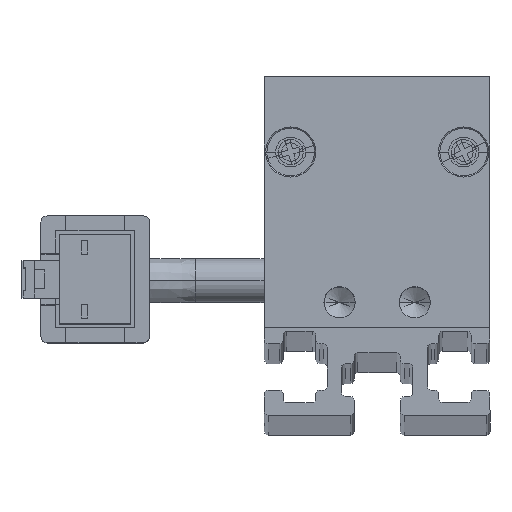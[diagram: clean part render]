
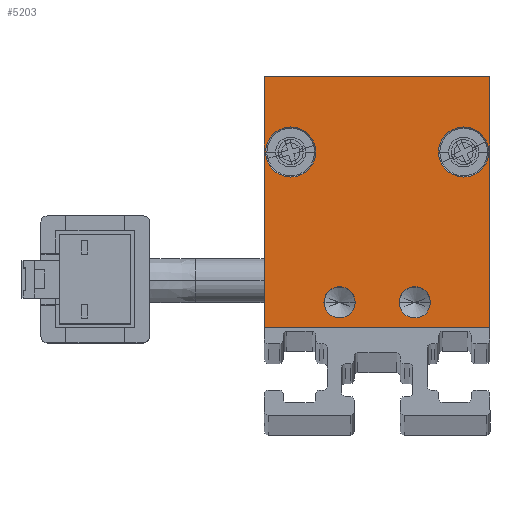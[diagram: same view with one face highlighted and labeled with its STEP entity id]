
A CAD part, top view. The second image highlights one B-rep face of the part: STEP entity #5203.
In plain terms, the highlighted planar face has unit normal (0, 0, 1) as drawn and (0, 0, -1) by its records, which use the part's own axes.
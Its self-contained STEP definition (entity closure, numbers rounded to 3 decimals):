
#13 = LINE ( 'NONE', #11820, #7384 ) ;
#281 = FACE_BOUND ( 'NONE', #11072, .T. ) ;
#341 = CARTESIAN_POINT ( 'NONE',  ( 8.9, 14., -2.5 ) ) ;
#390 = VERTEX_POINT ( 'NONE', #3933 ) ;
#506 = ORIENTED_EDGE ( 'NONE', *, *, #8351, .F. ) ;
#522 = AXIS2_PLACEMENT_3D ( 'NONE', #5256, #1318, #7332 ) ;
#657 = CIRCLE ( 'NONE', #5903, 2. ) ;
#912 = CARTESIAN_POINT ( 'NONE',  ( 9., 20., -2.5 ) ) ;
#974 = DIRECTION ( 'NONE',  ( 0., 1., 0. ) ) ;
#1318 = DIRECTION ( 'NONE',  ( 0., 0., -1. ) ) ;
#1334 = FACE_OUTER_BOUND ( 'NONE', #5670, .T. ) ;
#1337 = VERTEX_POINT ( 'NONE', #341 ) ;
#1446 = EDGE_CURVE ( 'NONE', #10167, #4856, #6175, .T. ) ;
#1566 = ORIENTED_EDGE ( 'NONE', *, *, #8465, .F. ) ;
#1674 = EDGE_CURVE ( 'NONE', #10662, #8745, #13, .T. ) ;
#1773 = CARTESIAN_POINT ( 'NONE',  ( 4.25, 2., -2.5 ) ) ;
#1887 = EDGE_CURVE ( 'NONE', #11799, #8272, #4382, .T. ) ;
#1899 = CARTESIAN_POINT ( 'NONE',  ( -9., 20., -2.5 ) ) ;
#2022 = DIRECTION ( 'NONE',  ( -1., 0., 0. ) ) ;
#2097 = ORIENTED_EDGE ( 'NONE', *, *, #3768, .F. ) ;
#2170 = PLANE ( 'NONE',  #4216 ) ;
#2500 = CARTESIAN_POINT ( 'NONE',  ( -4.9, 14., -2.5 ) ) ;
#2536 = DIRECTION ( 'NONE',  ( -1., 0., 0. ) ) ;
#2673 = EDGE_CURVE ( 'NONE', #7144, #6390, #3155, .T. ) ;
#2710 = CARTESIAN_POINT ( 'NONE',  ( 1.75, 2., -2.5 ) ) ;
#2748 = AXIS2_PLACEMENT_3D ( 'NONE', #12017, #9314, #6278 ) ;
#3028 = DIRECTION ( 'NONE',  ( -1., 0., 0. ) ) ;
#3079 = ORIENTED_EDGE ( 'NONE', *, *, #1674, .F. ) ;
#3091 = CARTESIAN_POINT ( 'NONE',  ( -3., 2., -2.5 ) ) ;
#3155 = CIRCLE ( 'NONE', #522, 1.25 ) ;
#3223 = CARTESIAN_POINT ( 'NONE',  ( -9., 20., -2.5 ) ) ;
#3256 = CARTESIAN_POINT ( 'NONE',  ( -1.75, 2., -2.5 ) ) ;
#3288 = DIRECTION ( 'NONE',  ( 0., 0., -1. ) ) ;
#3407 = ORIENTED_EDGE ( 'NONE', *, *, #1887, .F. ) ;
#3588 = CARTESIAN_POINT ( 'NONE',  ( -6.9, 14., -2.5 ) ) ;
#3768 = EDGE_CURVE ( 'NONE', #11291, #10662, #4825, .T. ) ;
#3771 = EDGE_LOOP ( 'NONE', ( #11705, #3407 ) ) ;
#3807 = AXIS2_PLACEMENT_3D ( 'NONE', #7312, #3288, #6244 ) ;
#3933 = CARTESIAN_POINT ( 'NONE',  ( 9., 20., -2.5 ) ) ;
#4216 = AXIS2_PLACEMENT_3D ( 'NONE', #10086, #5204, #6032 ) ;
#4382 = CIRCLE ( 'NONE', #9613, 1.25 ) ;
#4448 = EDGE_CURVE ( 'NONE', #4856, #10167, #8215, .T. ) ;
#4626 = CARTESIAN_POINT ( 'NONE',  ( -3., 2., -2.5 ) ) ;
#4659 = ORIENTED_EDGE ( 'NONE', *, *, #4448, .F. ) ;
#4719 = ORIENTED_EDGE ( 'NONE', *, *, #1446, .F. ) ;
#4825 = LINE ( 'NONE', #1899, #7998 ) ;
#4856 = VERTEX_POINT ( 'NONE', #7942 ) ;
#4901 = CARTESIAN_POINT ( 'NONE',  ( 6.9, 14., -2.5 ) ) ;
#5203 = ADVANCED_FACE ( 'NONE', ( #5269, #281, #6147, #10018, #1334 ), #2170, .F. ) ;
#5204 = DIRECTION ( 'NONE',  ( 0., 0., 1. ) ) ;
#5256 = CARTESIAN_POINT ( 'NONE',  ( 3., 2., -2.5 ) ) ;
#5269 = FACE_BOUND ( 'NONE', #7359, .T. ) ;
#5584 = DIRECTION ( 'NONE',  ( 0., -1., 0. ) ) ;
#5670 = EDGE_LOOP ( 'NONE', ( #2097, #1566, #11200, #3079 ) ) ;
#5903 = AXIS2_PLACEMENT_3D ( 'NONE', #10687, #7643, #2022 ) ;
#5909 = DIRECTION ( 'NONE',  ( -1., 0., 0. ) ) ;
#6032 = DIRECTION ( 'NONE',  ( 1., 0., 0. ) ) ;
#6082 = EDGE_LOOP ( 'NONE', ( #11244, #6923 ) ) ;
#6147 = FACE_BOUND ( 'NONE', #6082, .T. ) ;
#6175 = CIRCLE ( 'NONE', #2748, 2. ) ;
#6244 = DIRECTION ( 'NONE',  ( -1., 0., 0. ) ) ;
#6264 = CIRCLE ( 'NONE', #9698, 2. ) ;
#6278 = DIRECTION ( 'NONE',  ( -1., 0., 0. ) ) ;
#6390 = VERTEX_POINT ( 'NONE', #1773 ) ;
#6730 = LINE ( 'NONE', #912, #8871 ) ;
#6760 = DIRECTION ( 'NONE',  ( 1., 0., 0. ) ) ;
#6844 = DIRECTION ( 'NONE',  ( 0., 0., -1. ) ) ;
#6923 = ORIENTED_EDGE ( 'NONE', *, *, #12153, .F. ) ;
#7144 = VERTEX_POINT ( 'NONE', #2710 ) ;
#7312 = CARTESIAN_POINT ( 'NONE',  ( 3., 2., -2.5 ) ) ;
#7332 = DIRECTION ( 'NONE',  ( -1., 0., 0. ) ) ;
#7359 = EDGE_LOOP ( 'NONE', ( #506, #11947 ) ) ;
#7363 = DIRECTION ( 'NONE',  ( 0., 0., -1. ) ) ;
#7384 = VECTOR ( 'NONE', #6760, 1000. ) ;
#7462 = VECTOR ( 'NONE', #9921, 1000. ) ;
#7643 = DIRECTION ( 'NONE',  ( 0., 0., -1. ) ) ;
#7858 = AXIS2_PLACEMENT_3D ( 'NONE', #3091, #10786, #3028 ) ;
#7896 = CARTESIAN_POINT ( 'NONE',  ( -9., 0., -2.5 ) ) ;
#7942 = CARTESIAN_POINT ( 'NONE',  ( -8.9, 14., -2.5 ) ) ;
#7973 = EDGE_CURVE ( 'NONE', #8745, #390, #6730, .T. ) ;
#7998 = VECTOR ( 'NONE', #5584, 1000. ) ;
#8032 = EDGE_CURVE ( 'NONE', #8272, #11799, #9477, .T. ) ;
#8215 = CIRCLE ( 'NONE', #11459, 2. ) ;
#8272 = VERTEX_POINT ( 'NONE', #10643 ) ;
#8351 = EDGE_CURVE ( 'NONE', #12333, #1337, #6264, .T. ) ;
#8462 = DIRECTION ( 'NONE',  ( 0., 0., -1. ) ) ;
#8465 = EDGE_CURVE ( 'NONE', #390, #11291, #8903, .T. ) ;
#8745 = VERTEX_POINT ( 'NONE', #12474 ) ;
#8817 = CARTESIAN_POINT ( 'NONE',  ( -9., 20., -2.5 ) ) ;
#8871 = VECTOR ( 'NONE', #974, 1000. ) ;
#8903 = LINE ( 'NONE', #3223, #7462 ) ;
#9314 = DIRECTION ( 'NONE',  ( 0., 0., -1. ) ) ;
#9477 = CIRCLE ( 'NONE', #7858, 1.25 ) ;
#9613 = AXIS2_PLACEMENT_3D ( 'NONE', #4626, #8462, #2536 ) ;
#9698 = AXIS2_PLACEMENT_3D ( 'NONE', #4901, #6844, #5909 ) ;
#9921 = DIRECTION ( 'NONE',  ( -1., 0., 0. ) ) ;
#10018 = FACE_BOUND ( 'NONE', #3771, .T. ) ;
#10086 = CARTESIAN_POINT ( 'NONE',  ( 0., 0., -2.5 ) ) ;
#10167 = VERTEX_POINT ( 'NONE', #2500 ) ;
#10414 = CARTESIAN_POINT ( 'NONE',  ( 4.9, 14., -2.5 ) ) ;
#10458 = CIRCLE ( 'NONE', #3807, 1.25 ) ;
#10619 = EDGE_CURVE ( 'NONE', #1337, #12333, #657, .T. ) ;
#10643 = CARTESIAN_POINT ( 'NONE',  ( -4.25, 2., -2.5 ) ) ;
#10662 = VERTEX_POINT ( 'NONE', #7896 ) ;
#10687 = CARTESIAN_POINT ( 'NONE',  ( 6.9, 14., -2.5 ) ) ;
#10786 = DIRECTION ( 'NONE',  ( 0., 0., -1. ) ) ;
#11072 = EDGE_LOOP ( 'NONE', ( #4659, #4719 ) ) ;
#11119 = DIRECTION ( 'NONE',  ( -1., 0., 0. ) ) ;
#11200 = ORIENTED_EDGE ( 'NONE', *, *, #7973, .F. ) ;
#11244 = ORIENTED_EDGE ( 'NONE', *, *, #2673, .F. ) ;
#11291 = VERTEX_POINT ( 'NONE', #8817 ) ;
#11459 = AXIS2_PLACEMENT_3D ( 'NONE', #3588, #7363, #11119 ) ;
#11705 = ORIENTED_EDGE ( 'NONE', *, *, #8032, .F. ) ;
#11799 = VERTEX_POINT ( 'NONE', #3256 ) ;
#11820 = CARTESIAN_POINT ( 'NONE',  ( -9., 0., -2.5 ) ) ;
#11947 = ORIENTED_EDGE ( 'NONE', *, *, #10619, .F. ) ;
#12017 = CARTESIAN_POINT ( 'NONE',  ( -6.9, 14., -2.5 ) ) ;
#12153 = EDGE_CURVE ( 'NONE', #6390, #7144, #10458, .T. ) ;
#12333 = VERTEX_POINT ( 'NONE', #10414 ) ;
#12474 = CARTESIAN_POINT ( 'NONE',  ( 9., 0., -2.5 ) ) ;
